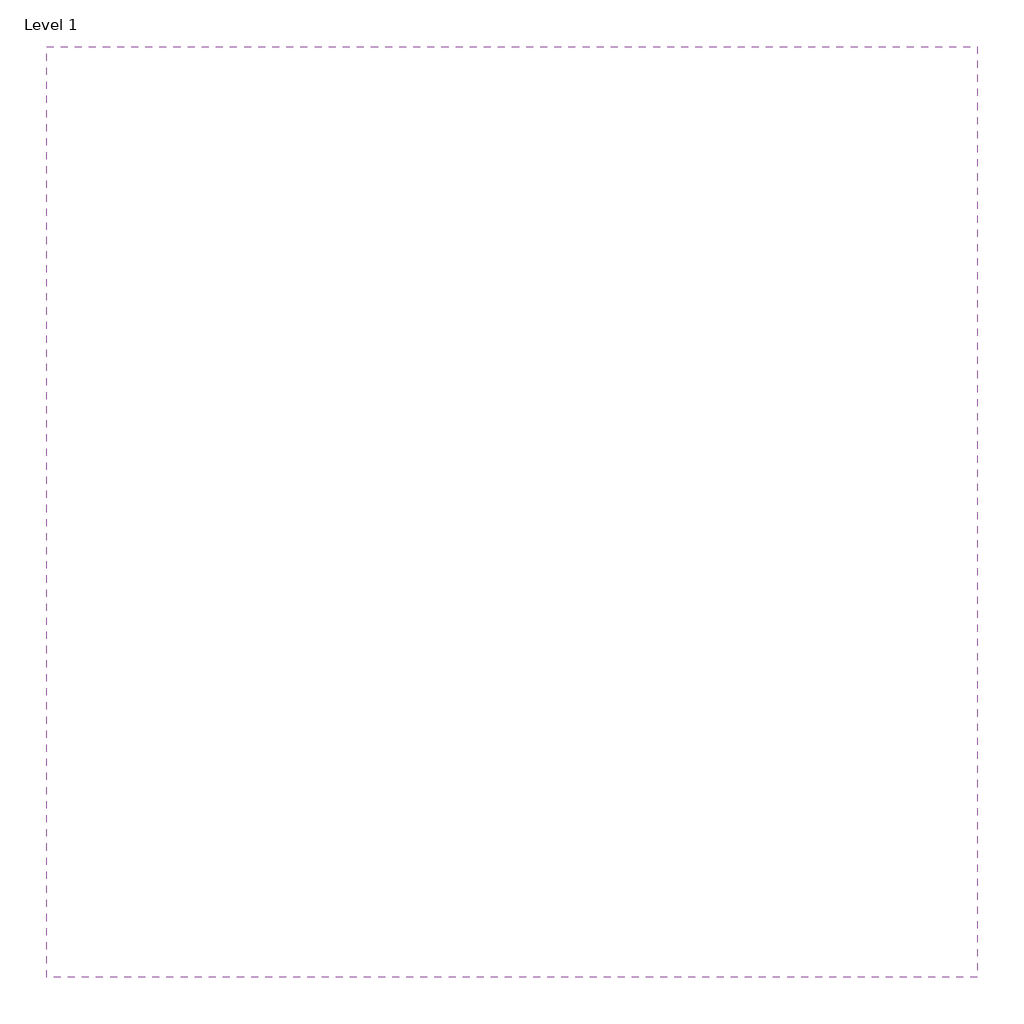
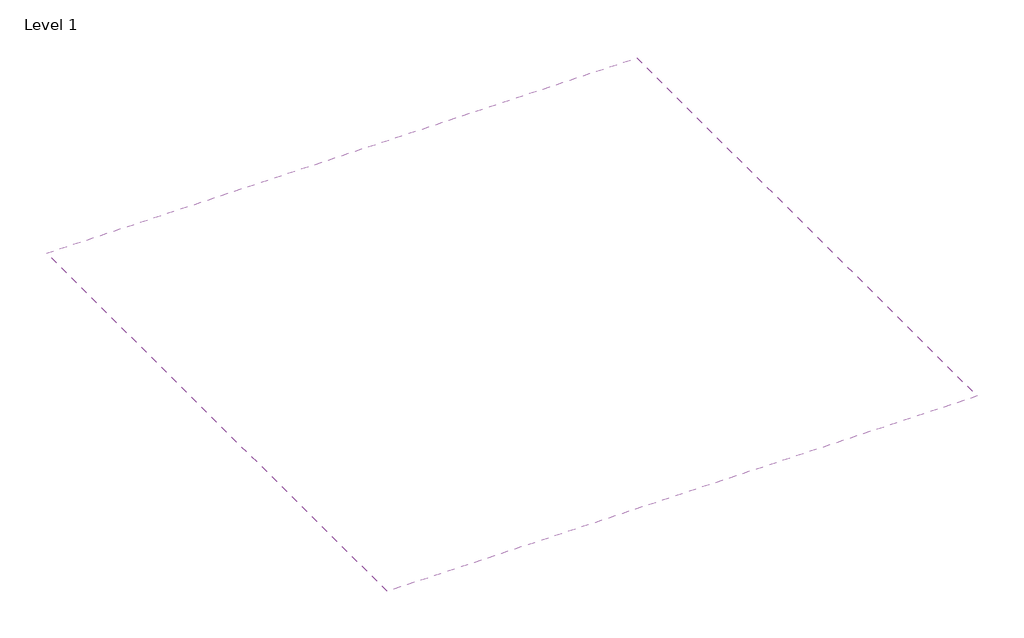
# One storey: 1 covering.
"""IFC4 building model written with IfcOpenShell, lengths in millimetres."""

import ifcopenshell
import ifcopenshell.guid

model = None  # the IFC model being written
_history = None  # IfcOwnerHistory: only IFC2X3 demands one
_inside = {}  # id of a spatial element -> (the spatial element, [elements in it])
_under = {}  # id of a project, library or spatial element -> (it, [spatial elements below it])
_declared = {}  # id of a project -> (the project, [libraries it declares])
_typed = {}  # id of a type object -> (the type object, [elements of that type])
_made_of = {}  # id of a material, layer set ... -> (it, [elements and type objects made of it])


def new_model(schema):
    """Start an empty IFC model of exactly this schema.

    Asked for "IFC4X3", IfcOpenShell would pick the latest addendum, in which some entities
    have other attributes; the version numbers below select the first issue.
    IFC2X3 requires an IfcOwnerHistory on every rooted entity: one is made here for all.
    """
    global model, _history
    if schema == "IFC4X3":
        model = ifcopenshell.file(schema_version=(4, 3, 0, 0))
    else:
        model = ifcopenshell.file(schema=schema)
    _inside.clear()
    _under.clear()
    _declared.clear()
    _typed.clear()
    _made_of.clear()
    _history = None
    if model.schema == "IFC2X3":
        org = make("IfcOrganization", Name="unknown")
        user = make(
            "IfcPersonAndOrganization",
            ThePerson=make("IfcPerson", FamilyName="unknown"),
            TheOrganization=org,
        )
        app = make(
            "IfcApplication",
            ApplicationDeveloper=org,
            Version="unknown",
            ApplicationFullName="unknown",
            ApplicationIdentifier="unknown",
        )
        _history = make(
            "IfcOwnerHistory",
            OwningUser=user,
            OwningApplication=app,
            ChangeAction="ADDED",
            CreationDate=0,
        )
    return model


def make(cls, **values):
    """One entity of the class cls with the attributes given. An attribute that is None is left unset."""
    return model.create_entity(
        cls, **{name: value for name, value in values.items() if value is not None}
    )


def rooted(cls, **values):
    """An entity with a GlobalId (a new one), such as an element, a storey or a relation."""
    return make(cls, GlobalId=ifcopenshell.guid.new(), OwnerHistory=_history, **values)


def si_unit(unit_type, name, prefix=None):
    """IfcSIUnit, for example si_unit("LENGTHUNIT", "METRE", prefix="MILLI")."""
    return make("IfcSIUnit", UnitType=unit_type, Prefix=prefix, Name=name)


def assignment(units):
    """IfcUnitAssignment: the units of a project."""
    return None if units is None else make("IfcUnitAssignment", Units=units)


def point(xyz):
    """IfcCartesianPoint."""
    return None if xyz is None else make("IfcCartesianPoint", Coordinates=xyz)


def direction(xyz):
    """IfcDirection."""
    return None if xyz is None else make("IfcDirection", DirectionRatios=xyz)


def frame(location, z_axis=None, x_axis=None):
    """IfcAxis2Placement3D, a coordinate frame: its origin and axes. An axis left out is left unset."""
    return make(
        "IfcAxis2Placement3D",
        Location=point(location),
        Axis=direction(z_axis),
        RefDirection=direction(x_axis),
    )


def origin():
    """The frame at (0, 0, 0) with its axes left unset."""
    return frame((0.0, 0.0, 0.0))


def place(relative_to, where):
    """IfcLocalPlacement: puts the frame where relative to a parent placement (None: the world)."""
    return make(
        "IfcLocalPlacement", PlacementRelTo=relative_to, RelativePlacement=where
    )


def context(
    kind, dimensions, precision=None, world=None, true_north=None, identifier=None
):
    """IfcGeometricRepresentationContext, for example the 3D "Model" context."""
    return make(
        "IfcGeometricRepresentationContext",
        ContextIdentifier=identifier,
        ContextType=kind,
        CoordinateSpaceDimension=dimensions,
        Precision=precision,
        WorldCoordinateSystem=world,
        TrueNorth=true_north,
    )


def project(units=None, contexts=None):
    """IfcProject with its units and contexts."""
    return rooted(
        "IfcProject",
        Name="project",
        RepresentationContexts=contexts,
        UnitsInContext=assignment(units),
    )


def spatial(cls, under=None, at=None, **own):
    """A site, building, storey or space (cls), placed at a placement, below another one or the project."""
    s = rooted(cls, ObjectPlacement=at, **own)
    if under is not None:
        _under.setdefault(under.id(), (under, []))[1].append(s)
    return s


def polyline(points):
    """IfcPolyline through the points."""
    return make("IfcPolyline", Points=[point(p) for p in points])


def outline(outer, holes=None, kind="AREA"):
    """IfcArbitraryClosedProfileDef: a profile drawn as a closed curve; with holes, ...WithVoids."""
    if holes is None:
        return make("IfcArbitraryClosedProfileDef", ProfileType=kind, OuterCurve=outer)
    return make(
        "IfcArbitraryProfileDefWithVoids",
        ProfileType=kind,
        OuterCurve=outer,
        InnerCurves=holes,
    )


def extrude(swept, where, along, depth):
    """IfcExtrudedAreaSolid: the profile swept, set in the frame where, extruded along a direction by depth."""
    return make(
        "IfcExtrudedAreaSolid",
        SweptArea=swept,
        Position=where,
        ExtrudedDirection=direction(along),
        Depth=depth,
    )


def shape(context_of_items, identifier, shape_type, items):
    """IfcShapeRepresentation: the items that make up one representation, for example the "Body"."""
    return make(
        "IfcShapeRepresentation",
        ContextOfItems=context_of_items,
        RepresentationIdentifier=identifier,
        RepresentationType=shape_type,
        Items=items,
    )


def made_of(thing, what):
    """Note that an element or type object is made of a material, layer set ...; save() writes the relation."""
    if what is not None:
        _made_of.setdefault(what.id(), (what, []))[1].append(thing)
    return thing


def element(
    cls,
    number,
    at=None,
    inside=None,
    cuts=None,
    type_object=None,
    material=None,
    context=None,
    identifier="Body",
    shape_type=None,
    held_by="IfcProductDefinitionShape",
    body=None,
    shapes=None,
    **own,
):
    """One element of the class cls, such as IfcWall. Its Tag is "e" and its number.

    at: its placement. inside: the storey or other place that contains it. cuts: it is an
    opening in that element (IfcRelVoidsElement). A single representation is given by context,
    identifier, shape_type and body (its items); several are given by shapes. held_by: the class
    of the entity that holds the representations. save() writes the other relations.
    """
    e = rooted(cls, Tag="e%d" % number, ObjectPlacement=at, **own)
    if body is not None:
        shapes = [shape(context, identifier, shape_type, body)]
    if shapes is not None:
        e.Representation = make(held_by, Representations=shapes)
    if inside is not None:
        _inside.setdefault(inside.id(), (inside, []))[1].append(e)
    if cuts is not None:
        rooted(
            "IfcRelVoidsElement", RelatingBuildingElement=cuts, RelatedOpeningElement=e
        )
    if type_object is not None:
        _typed.setdefault(type_object.id(), (type_object, []))[1].append(e)
    return made_of(e, material)


def aggregate(whole, parts):
    """IfcRelAggregates: a whole, such as a stair, and the parts it consists of."""
    return rooted("IfcRelAggregates", RelatingObject=whole, RelatedObjects=parts)


def save(model, path):
    """Write the relations noted so far, then the file.

    IfcRelAggregates (storeys below a building ...), IfcRelContainedInSpatialStructure (elements
    in a storey), IfcRelDefinesByType, IfcRelAssociatesMaterial and IfcRelDeclares: one each for
    every whole, place, type object, material and project.
    """
    for whole, parts in _under.values():
        aggregate(whole, parts)
    for where, things in _inside.values():
        rooted(
            "IfcRelContainedInSpatialStructure",
            RelatedElements=things,
            RelatingStructure=where,
        )
    for kind, things in _typed.values():
        rooted("IfcRelDefinesByType", RelatedObjects=things, RelatingType=kind)
    for what, things in _made_of.values():
        rooted("IfcRelAssociatesMaterial", RelatedObjects=things, RelatingMaterial=what)
    for by, libraries in _declared.values():
        rooted("IfcRelDeclares", RelatingContext=by, RelatedDefinitions=libraries)
    model.write(path)


model = new_model("IFC4")

# Units and contexts
model_context = context("Model", 3, world=origin())
ifc_project = project(units=[si_unit("LENGTHUNIT", "METRE", prefix="MILLI")], contexts=[model_context])

# Site, building, storey
site = spatial("IfcSite", under=ifc_project)
building = spatial("IfcBuilding", under=site)
storey = spatial("IfcBuildingStorey", under=building, Name="Level 1", Elevation=0.0)

# Covering
placement = place(None, origin())
element("IfcCovering", 1, ObjectType="NBS_ArmstrongCeilingsLtd_UnitModularSuspendedCeilingSystem_CoolZoneTegulark8-16-Prelude24Exposed_600x600x25mm_GB", at=placement, inside=storey, context=model_context, shape_type="SweptSolid", body=[
    extrude(outline(polyline([(2400.0, 2600.0), (2400.0, 100.0), (-100.0, 100.0), (-100.0, 2600.0), (2400.0, 2600.0)])), frame((0.0, 0.0, 2600.0), z_axis=(0.0, 0.0, 1.0), x_axis=(1.0, 0.0, 0.0)), (0.0, 0.0, 1.0), 51.0),
])

save(model, "model.ifc")
